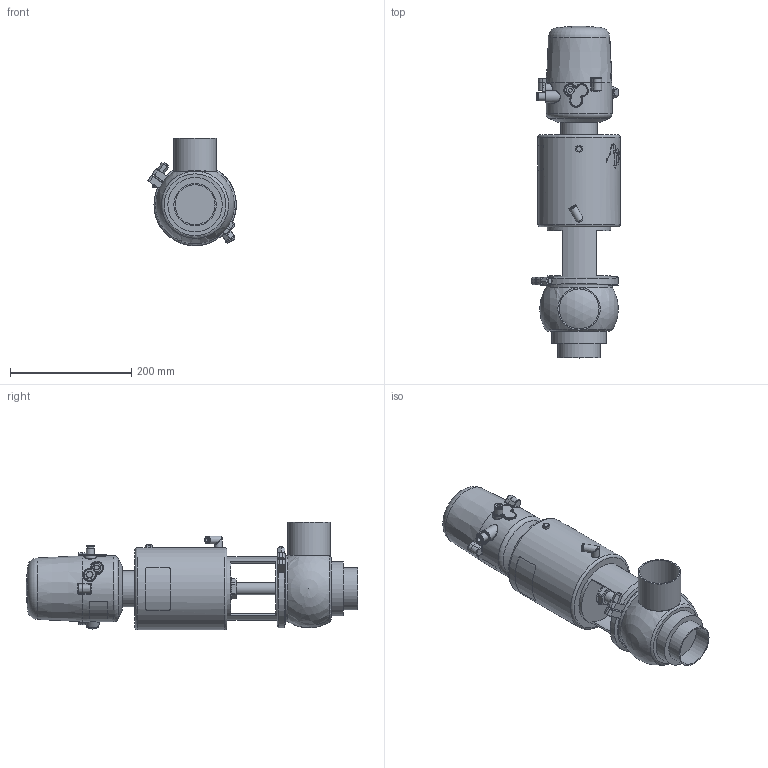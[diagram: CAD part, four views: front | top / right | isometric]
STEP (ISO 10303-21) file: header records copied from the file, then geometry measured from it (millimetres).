
FILE_DESCRIPTION (( 'STEP AP214' ), '1' );
FILE_NAME ('INNOVA N L W DIN 065 T3 AS NC & C-TOP S_10.240.16.0055.STEP', '2024-08-06T08:01:13', ( '' ), ( '' ), 'SwSTEP 2.0', 'SolidWorks 2023', '' );
FILE_SCHEMA (( 'AUTOMOTIVE_DESIGN' ));
Length unit declared in the file: millimetre
Products named in the file (7): 10.240.15.0001_DN 065; 10.240.15.0014_T3 AS P0; 10.240.15.0010_DN 065; 10.240.15.0002_DIN 065; 10.426.15.0001_C-TOP S - 1 EV; 10.240.15.0017_Estàndard; INNOVA N L W DIN 065 T3 AS NC & C-TOP S_10.240.16.0055
Assembly tree (6 placements, depth 2):
  INNOVA N L W DIN 065 T3 AS NC & C-TOP S_10.240.16.0055
    10.240.15.0002_DIN 065
    10.240.15.0010_DN 065
    10.240.15.0014_T3 AS P0
    10.240.15.0017_Estàndard
    10.426.15.0001_C-TOP S - 1 EV
    10.240.15.0001_DN 065
Bounding box: 146.15 x 548.5 x 178 mm (x, y, z)
Volume: 5012184.3 mm3; surface area: 367493.1 mm2
Topology: 6 solids, 6 shells, 1100 faces, 2645 edges, 1765 vertices
Faces by surface type: plane 376, cylinder 330, cone 191, bspline 160, torus 37, sphere 6
Full cylindrical faces by diameter (mm): 0.371 x17, 0.512 x16, 0.658 x16, 0.795 x16, 0.94 x15, 1.098 x15, 1.241 x13, 1.382 x13, 1.523 x11, 1.669 x10, 2.201 x1, 4 x2, 5.5 x2, 6 x2, 6.15 x1, 8 x4, 8.5 x1, 10 x1, 10.5 x1, 11 x2, 12.5 x3, 13 x2, 13.5 x2, 16 x1, 17 x3, 20 x3, 20.5 x1, 22 x2, 31 x1, 34.5 x3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
Entity records: 57780 total; most frequent: CARTESIAN_POINT 27818, ORIENTED_EDGE 4488, DIRECTION 3597, EDGE_CURVE 2244, VERTEX_POINT 1594, EDGE_LOOP 1548, AXIS2_PLACEMENT_3D 1470, FACE_OUTER_BOUND 1312
